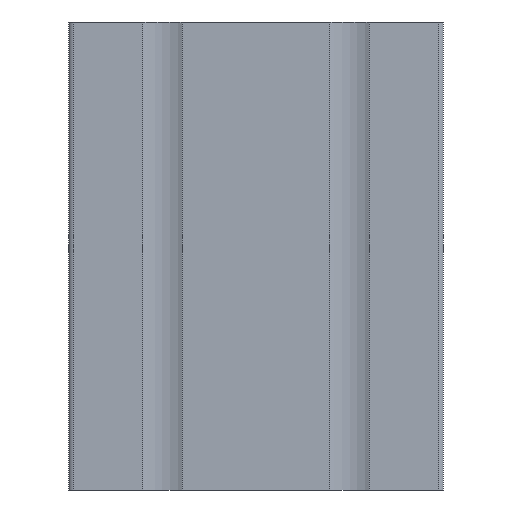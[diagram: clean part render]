
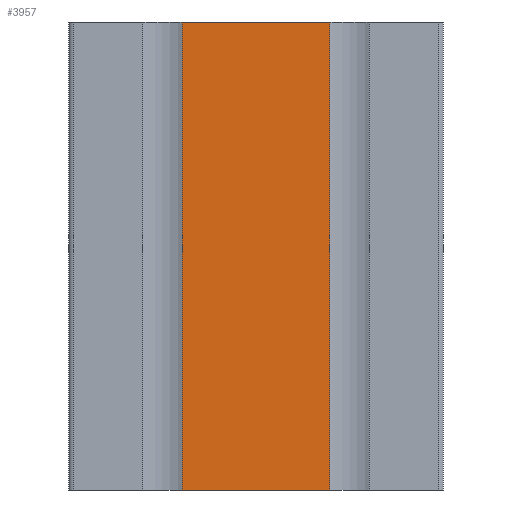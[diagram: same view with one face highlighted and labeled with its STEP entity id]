
A CAD part, left-side view. The second image highlights one B-rep face of the part: STEP entity #3957.
In plain terms, the highlighted planar face has unit normal (-1, 0, 0).
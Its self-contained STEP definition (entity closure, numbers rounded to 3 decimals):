
#112 = ORIENTED_EDGE ( 'NONE', *, *, #933, .F. ) ;
#190 = ORIENTED_EDGE ( 'NONE', *, *, #252, .T. ) ;
#252 = EDGE_CURVE ( 'NONE', #3453, #6705, #5144, .T. ) ;
#268 = DIRECTION ( 'NONE',  ( 0., 0., -1. ) ) ;
#364 = FACE_OUTER_BOUND ( 'NONE', #1341, .T. ) ;
#391 = CARTESIAN_POINT ( 'NONE',  ( -40., -15.8, -50. ) ) ;
#431 = VERTEX_POINT ( 'NONE', #3333 ) ;
#933 = EDGE_CURVE ( 'NONE', #431, #5308, #6750, .T. ) ;
#1341 = EDGE_LOOP ( 'NONE', ( #2240, #112, #2582, #190 ) ) ;
#1467 = VECTOR ( 'NONE', #5640, 1000. ) ;
#2060 = VECTOR ( 'NONE', #3536, 1000. ) ;
#2240 = ORIENTED_EDGE ( 'NONE', *, *, #4886, .T. ) ;
#2582 = ORIENTED_EDGE ( 'NONE', *, *, #5838, .F. ) ;
#2977 = VECTOR ( 'NONE', #268, 1000. ) ;
#3009 = CARTESIAN_POINT ( 'NONE',  ( -40., 15.8, 50. ) ) ;
#3333 = CARTESIAN_POINT ( 'NONE',  ( -40., -15.8, 50. ) ) ;
#3427 = CARTESIAN_POINT ( 'NONE',  ( -40., -15.8, 50. ) ) ;
#3453 = VERTEX_POINT ( 'NONE', #6777 ) ;
#3536 = DIRECTION ( 'NONE',  ( 0., -1., 0. ) ) ;
#3957 = ADVANCED_FACE ( 'NONE', ( #364 ), #6960, .F. ) ;
#4812 = AXIS2_PLACEMENT_3D ( 'NONE', #6357, #5885, #6327 ) ;
#4886 = EDGE_CURVE ( 'NONE', #6705, #5308, #6751, .T. ) ;
#5144 = LINE ( 'NONE', #3009, #2977 ) ;
#5308 = VERTEX_POINT ( 'NONE', #391 ) ;
#5450 = CARTESIAN_POINT ( 'NONE',  ( -40., 15.8, 50. ) ) ;
#5640 = DIRECTION ( 'NONE',  ( 0., 0., -1. ) ) ;
#5838 = EDGE_CURVE ( 'NONE', #3453, #431, #6032, .T. ) ;
#5885 = DIRECTION ( 'NONE',  ( 1., 0., 0. ) ) ;
#6013 = CARTESIAN_POINT ( 'NONE',  ( -40., 15.8, -50. ) ) ;
#6032 = LINE ( 'NONE', #5450, #6955 ) ;
#6070 = DIRECTION ( 'NONE',  ( 0., -1., 0. ) ) ;
#6253 = CARTESIAN_POINT ( 'NONE',  ( -40., 15.8, -50. ) ) ;
#6327 = DIRECTION ( 'NONE',  ( 0., 0., -1. ) ) ;
#6357 = CARTESIAN_POINT ( 'NONE',  ( -40., 15.8, 50. ) ) ;
#6705 = VERTEX_POINT ( 'NONE', #6013 ) ;
#6750 = LINE ( 'NONE', #3427, #1467 ) ;
#6751 = LINE ( 'NONE', #6253, #2060 ) ;
#6777 = CARTESIAN_POINT ( 'NONE',  ( -40., 15.8, 50. ) ) ;
#6955 = VECTOR ( 'NONE', #6070, 1000. ) ;
#6960 = PLANE ( 'NONE',  #4812 ) ;
